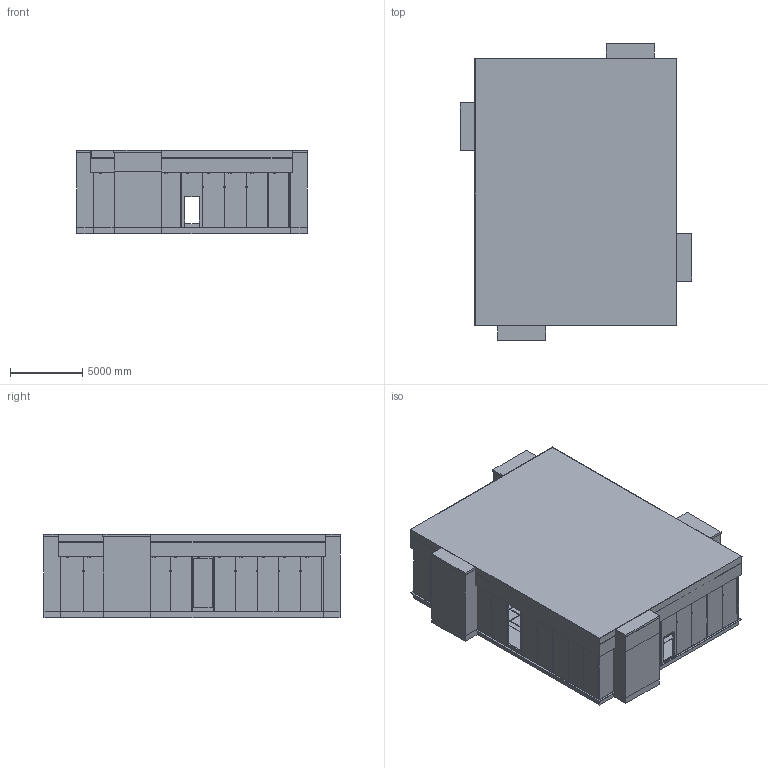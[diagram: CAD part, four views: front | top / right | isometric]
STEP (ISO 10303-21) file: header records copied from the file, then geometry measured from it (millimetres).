
FILE_DESCRIPTION (('STEP'), '1');
FILE_NAME ('\\SrvLUT061\LUT_HOME_Galliker.M$\Dokumente\00 CAD\07 Pläne für Website\3D-Modell Box_Luzerner Theater\3D-Modell Box_Luzerner Theater.stp', '2026-01-14T14:50:39', ('Unknown'), ('Unknown'), 'HarmonyWare STEP v2.1.9', 'Vectorworks', '');
FILE_SCHEMA (('CONFIG_CONTROL_DESIGN'));
Bounding box: 15980 x 20480 x 5800 mm (x, y, z)
Volume: 350367414995.1 mm3; surface area: 3795035186.9 mm2
Topology: 701 solids, 891 shells, 7972 faces, 19987 edges, 13610 vertices
Faces by surface type: bspline 7972
Entity records: 213333 total; most frequent: CARTESIAN_POINT 86178, ORIENTED_EDGE 39118, B_SPLINE_CURVE_WITH_KNOTS 19987, EDGE_CURVE 19987, VERTEX_POINT 13610, EDGE_LOOP 8317, FACE_OUTER_BOUND 7972, B_SPLINE_SURFACE_WITH_KNOTS 7972
